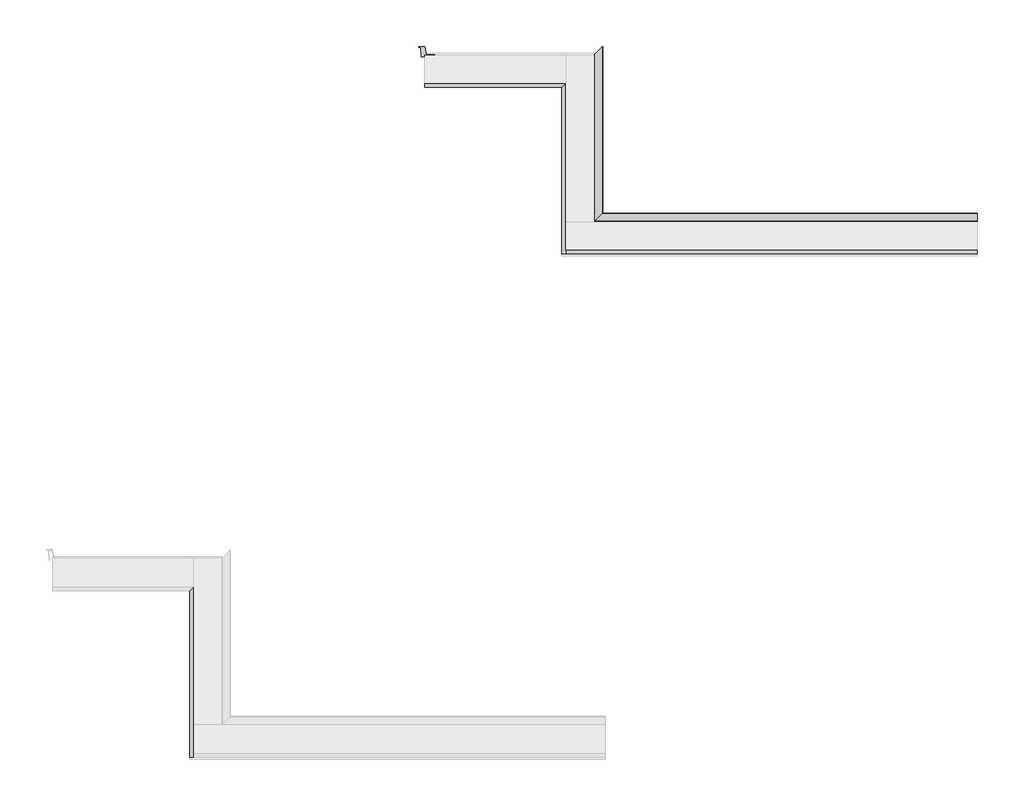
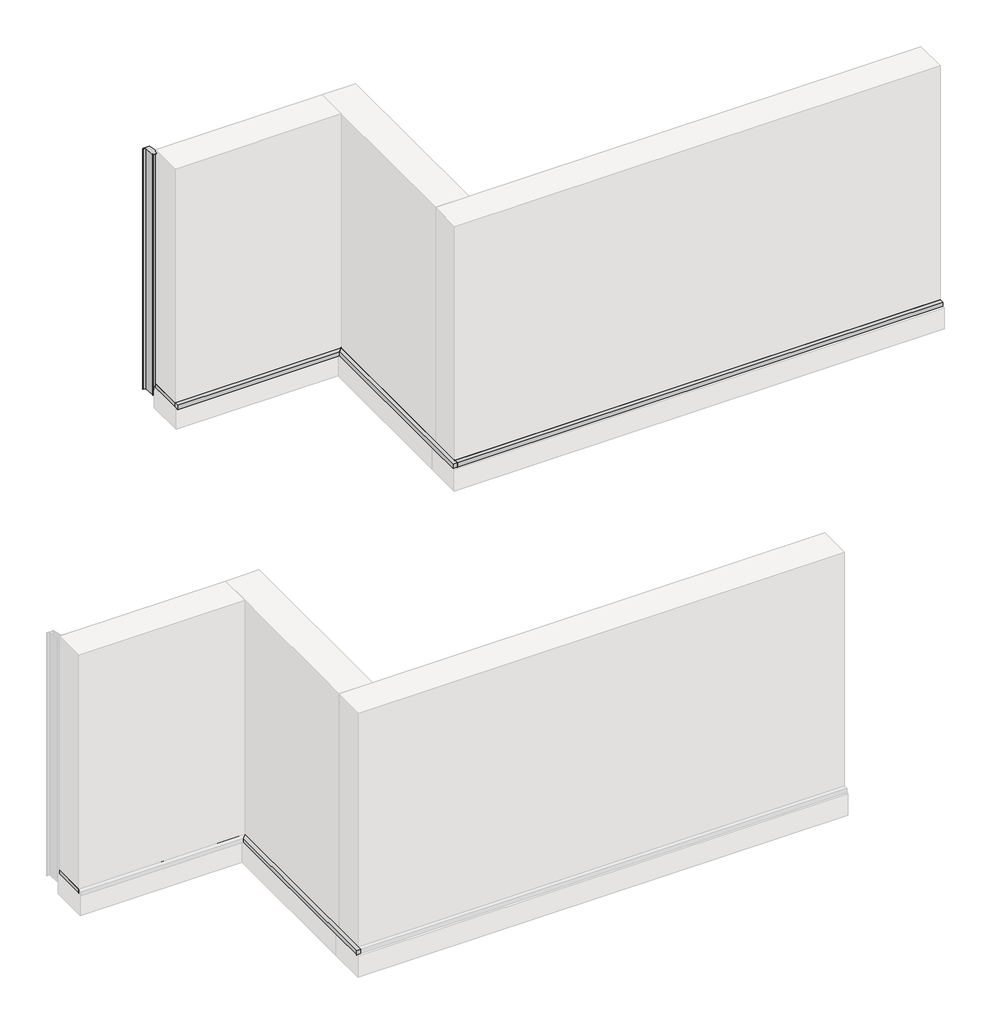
# One storey, part 2 of 2: 15 proxies.
"""IFC4 building model written with IfcOpenShell, lengths in millimetres."""

from ifc_helpers import new_model, si_unit, frame, origin, origin_with_axes, place, context, project, spatial, polyline, circle_curve, ellipse_curve, outline, extrude, faceted_brep, transform, mapped, element, save
from ifc_brep_helpers import plane_surface, cylinder_surface, revolved_surface, advanced_brep
from components import generic_models_a85a8350, generic_models_260bb002, end_cap_end_cap_e757bbac, end_cap_end_cap_c93f98a4

model = new_model("IFC4")

# Units and contexts
model_context = context("Model", 3, world=origin())
ifc_project = project(units=[si_unit("LENGTHUNIT", "METRE", prefix="MILLI")], contexts=[model_context])

# Site, building, storey
site = spatial("IfcSite", under=ifc_project)
building = spatial("IfcBuilding", under=site)
storey = spatial("IfcBuildingStorey", under=building, Name="Air Blocking KPA-L150U", Elevation=0.0)

# Proxies
placement = place(None, origin())
element("IfcBuildingElementProxy", 1, Name="Joto-Vent KP-L150U", ObjectType="Joto-Vent KP-L150U", at=placement, inside=storey, context=model_context, shape_type="Brep", body=[
    faceted_brep([(2314.048582, 8301.6714085, 20.0), (2464.048582, 8451.6714085, 20.0), (2464.048582, 8451.6714085, 0.0), (2314.048582, 8301.6714085, 0.0), (4489.048582, 8451.6714085, 0.0), (4489.048582, 8451.6714085, 20.0), (4489.048582, 8413.4607536, 20.0), (4489.048582, 8413.4607536, 0.95), (4489.048582, 8339.8820634, 0.95), (4489.048582, 8339.8820634, 20.0), (4489.048582, 8301.6714085, 20.0), (4489.048582, 8301.6714085, 0.0), (4458.915882, 8339.8820634, 20.0), (4458.915882, 8324.2210536, 20.0), (4449.588041, 8324.2210536, 20.0), (4449.455341, 8339.8607536, 20.0), (4441.448582, 8339.8607536, 20.0), (4441.448582, 8413.4820634, 20.0), (4449.455341, 8413.4820634, 20.0), (4449.588041, 8429.1217634, 20.0), (4458.915882, 8429.1217634, 20.0), (4458.915882, 8413.4607536, 20.0), (4417.106282, 8429.1217634, 20.0), (4426.4341229, 8429.1217634, 20.0), (4426.5668229, 8413.4820634, 20.0), (4434.573582, 8413.4820634, 20.0), (4434.573582, 8339.8607536, 20.0), (4426.5668229, 8339.8607536, 20.0), (4426.4341229, 8324.2210536, 20.0), (4417.106282, 8324.2210536, 20.0), (4417.106282, 8339.8820634, 20.0), (4386.973582, 8339.8820634, 20.0), (4386.973582, 8413.4607536, 20.0), (4417.106282, 8413.4607536, 20.0), (4417.106282, 8429.1217634, 0.95), (4417.106282, 8413.4607536, 0.95), (4386.973582, 8413.4607536, 0.95), (4386.973582, 8339.8820634, 0.95), (4417.106282, 8339.8820634, 0.95), (4417.106282, 8324.2210536, 0.95), (4426.4341229, 8324.2210536, 0.95), (4426.5668229, 8339.8607536, 0.95), (4434.573582, 8339.8607536, 0.95), (4434.573582, 8413.4820634, 0.95), (4426.5668229, 8413.4820634, 0.95), (4426.4341229, 8429.1217634, 0.95), (4458.915882, 8429.1217634, 0.95), (4449.588041, 8429.1217634, 0.95), (4449.455341, 8413.4820634, 0.95), (4441.448582, 8413.4820634, 0.95), (4441.448582, 8339.8607536, 0.95), (4449.455341, 8339.8607536, 0.95), (4449.588041, 8324.2210536, 0.95), (4458.915882, 8324.2210536, 0.95), (4458.915882, 8339.8820634, 0.95), (4458.915882, 8413.4607536, 0.95)], [[[0, 1, 2, 3]], [[4, 5, 6, 7, 8, 9, 10, 11]], [[1, 0, 10, 9, 12, 13, 14, 15, 16, 17, 18, 19, 20, 21, 6, 5], [22, 23, 24, 25, 26, 27, 28, 29, 30, 31, 32, 33]], [[2, 1, 5, 4]], [[3, 2, 4, 11]], [[0, 3, 11, 10]], [[34, 35, 36, 37, 38, 39, 40, 41, 42, 43, 44, 45]], [[34, 45, 23, 22]], [[45, 44, 24, 23]], [[44, 43, 25, 24]], [[43, 42, 26, 25]], [[42, 41, 27, 26]], [[41, 40, 28, 27]], [[40, 39, 29, 28]], [[39, 38, 30, 29]], [[38, 37, 31, 30]], [[37, 36, 32, 31]], [[36, 35, 33, 32]], [[35, 34, 22, 33]], [[46, 47, 48, 49, 50, 51, 52, 53, 54, 8, 7, 55]], [[47, 46, 20, 19]], [[48, 47, 19, 18]], [[49, 48, 18, 17]], [[50, 49, 17, 16]], [[51, 50, 16, 15]], [[52, 51, 15, 14]], [[53, 52, 14, 13]], [[54, 53, 13, 12]], [[8, 54, 12, 9]], [[55, 7, 6, 21]], [[46, 55, 21, 20]]]),
])
element("IfcBuildingElementProxy", 2, Name="Architectural-Covering_WACF-U45", ObjectType="Architectural-Covering_WACF-U45", at=placement, inside=storey, context=model_context, shape_type="AdvancedBrep", body=[
    advanced_brep(
    [(2464.848582, 8452.4714085, 62.5), (2464.848582, 8452.4714085, 18.6269726), (2465.5922023, 8453.2150288, 17.7168268), (2508.2782765, 8495.901103, 9.0322469), (2509.048582, 8496.6714085, 8.0894401), (2509.048582, 8496.6714085, -20.6283181), (2506.248582, 8493.8714085, -20.6283181), (2506.248582, 8493.8714085, -10.7749849), (2505.4765016, 8493.0993281, -9.9754722), (2455.529355, 8443.1521815, -8.2312794), (2455.6275182, 8443.2503448, -5.4202514), (2460.0872462, 8447.7100727, -5.5759885), (2460.0593436, 8447.6821702, -6.3750142), (2455.6195775, 8443.2424041, -6.2199741), (2455.5772195, 8443.200046, -7.4329509), (2506.0585158, 8493.6813423, -9.1957966), (2507.048582, 8494.6714085, -10.2210401), (2507.048582, 8494.6714085, -20.6018682), (2508.248582, 8495.8714085, -20.6018682), (2508.248582, 8495.8714085, 7.5064524), (2507.5474981, 8495.1703247, 8.3645361), (2464.8402345, 8452.463061, 17.0534271), (2464.048582, 8451.6714085, 18.0223614), (2464.048582, 8451.6714085, 62.5), (4489.048582, 8452.4714085, 62.5), (4489.048582, 8451.6714085, 62.5), (4489.048582, 8451.6714085, 18.0223614), (4489.048582, 8452.463061, 17.0534271), (4489.048582, 8495.1703247, 8.3645361), (4489.048582, 8495.8714085, 7.5064524), (4489.048582, 8495.8714085, -20.6018682), (4489.048582, 8494.6714085, -20.6018682), (4489.048582, 8494.6714085, -10.2210401), (4489.048582, 8493.6813423, -9.1957966), (4489.048582, 8443.200046, -7.4329509), (4489.048582, 8443.2424041, -6.2199741), (4489.048582, 8447.6821702, -6.3750142), (4489.048582, 8447.7100727, -5.5759885), (4489.048582, 8443.2503448, -5.4202514), (4489.048582, 8443.1521815, -8.2312794), (4489.048582, 8493.0993281, -9.9754722), (4489.048582, 8493.8714085, -10.7749849), (4489.048582, 8493.8714085, -20.6283181), (4489.048582, 8496.6714085, -20.6283181), (4489.048582, 8496.6714085, 8.0894401), (4489.048582, 8495.901103, 9.0322469), (4489.048582, 8453.2150288, 17.7168268), (4489.048582, 8452.4714085, 18.6269726)],
    [
        (0, 1),
        (1, 2, ellipse_curve(frame((2465.7773735, 8453.4002001, 18.6269726), z_axis=(0.7071067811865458, -0.7071067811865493, 0.0), x_axis=(0.7071067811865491, 0.7071067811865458, 0.0)), 1.3135097, 0.9287916)),
        (2, 3),
        (3, 4, ellipse_curve(frame((2508.0864603, 8495.7092868, 8.0894401), z_axis=(-0.7071067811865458, 0.7071067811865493, 0.0), x_axis=(-0.7071067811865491, -0.7071067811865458, 0.0)), 1.3606455, 0.9621217)),
        (4, 5),
        (5, 6, ellipse_curve(frame((2507.648582, 8495.2714085, -20.6283181), z_axis=(-0.7071067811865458, 0.7071067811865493, 0.0), x_axis=(-0.7071067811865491, -0.7071067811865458, 0.0)), 1.979899, 1.4)),
        (6, 7),
        (7, 8, ellipse_curve(frame((2505.448582, 8493.0714085, -10.7749849), z_axis=(0.7071067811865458, -0.7071067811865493, 0.0), x_axis=(0.7071067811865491, 0.7071067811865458, 0.0)), 1.1313708, 0.8)),
        (8, 9),
        (9, 10, ellipse_curve(frame((2455.5784366, 8443.2012631, -6.8257654), z_axis=(-0.7071067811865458, 0.7071067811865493, 0.0), x_axis=(-0.7071067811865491, -0.7071067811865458, 0.0)), 1.9889086, 1.4063707)),
        (10, 11),
        (11, 12),
        (12, 13),
        (13, 14, ellipse_curve(frame((2455.5983985, 8443.2212251, -6.8264625), z_axis=(0.7071067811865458, -0.7071067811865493, 0.0), x_axis=(0.7071067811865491, 0.7071067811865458, 0.0)), 0.8582269, 0.6068581)),
        (14, 15),
        (15, 16, ellipse_curve(frame((2506.0227135, 8493.6455401, -10.2210401), z_axis=(-0.7071067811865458, 0.7071067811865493, 0.0), x_axis=(-0.7071067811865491, -0.7071067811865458, 0.0)), 1.4507971, 1.0258685)),
        (16, 17),
        (17, 18, ellipse_curve(frame((2507.648582, 8495.2714085, -20.6018682), z_axis=(0.7071067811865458, -0.7071067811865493, 0.0), x_axis=(0.7071067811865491, 0.7071067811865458, 0.0)), 0.8485281, 0.6)),
        (18, 19),
        (19, 20, ellipse_curve(frame((2507.372919, 8494.9957456, 7.5064524), z_axis=(0.7071067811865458, -0.7071067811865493, 0.0), x_axis=(0.7071067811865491, 0.7071067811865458, 0.0)), 1.2383744, 0.8756629)),
        (20, 21),
        (21, 22, ellipse_curve(frame((2465.0373664, 8452.6601929, 18.0223614), z_axis=(-0.7071067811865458, 0.7071067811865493, 0.0), x_axis=(-0.7071067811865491, -0.7071067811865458, 0.0)), 1.3983524, 0.9887844)),
        (22, 23),
        (23, 0),
        (24, 25),
        (25, 26),
        (26, 27, circle_curve(frame((4489.048582, 8452.6601929, 18.0223614), z_axis=(1.0, 0.0, 0.0), x_axis=(0.0, 0.0, -1.0)), 0.9887844)),
        (27, 28),
        (28, 29, circle_curve(frame((4489.048582, 8494.9957456, 7.5064524), z_axis=(-1.0, 0.0, 0.0), x_axis=(0.0, 0.0, -1.0)), 0.8756629)),
        (29, 30),
        (30, 31, circle_curve(frame((4489.048582, 8495.2714085, -20.6018682), z_axis=(-1.0, 0.0, 0.0), x_axis=(0.0, 0.0, -1.0)), 0.6)),
        (31, 32),
        (32, 33, circle_curve(frame((4489.048582, 8493.6455401, -10.2210401), z_axis=(1.0, 0.0, 0.0), x_axis=(0.0, 0.0, -1.0)), 1.0258685)),
        (33, 34),
        (34, 35, circle_curve(frame((4489.048582, 8443.2212251, -6.8264625), z_axis=(-1.0, 0.0, 0.0), x_axis=(0.0, 0.0, -1.0)), 0.6068581)),
        (35, 36),
        (36, 37),
        (37, 38),
        (38, 39, circle_curve(frame((4489.048582, 8443.2012631, -6.8257654), z_axis=(1.0, 0.0, 0.0), x_axis=(0.0, 0.0, -1.0)), 1.4063707)),
        (39, 40),
        (40, 41, circle_curve(frame((4489.048582, 8493.0714085, -10.7749849), z_axis=(-1.0, 0.0, 0.0), x_axis=(0.0, 0.0, -1.0)), 0.8)),
        (41, 42),
        (42, 43, circle_curve(frame((4489.048582, 8495.2714085, -20.6283181), z_axis=(1.0, 0.0, 0.0), x_axis=(0.0, 0.0, -1.0)), 1.4)),
        (43, 44),
        (44, 45, circle_curve(frame((4489.048582, 8495.7092868, 8.0894401), z_axis=(1.0, 0.0, 0.0), x_axis=(0.0, 0.0, -1.0)), 0.9621217)),
        (45, 46),
        (46, 47, circle_curve(frame((4489.048582, 8453.4002001, 18.6269726), z_axis=(-1.0, 0.0, 0.0), x_axis=(0.0, 0.0, -1.0)), 0.9287916)),
        (47, 24),
        (0, 24),
        (47, 1),
        (46, 2),
        (45, 3),
        (44, 4),
        (43, 5),
        (42, 6),
        (41, 7),
        (40, 8),
        (39, 9),
        (38, 10),
        (37, 11),
        (36, 12),
        (35, 13),
        (34, 14),
        (33, 15),
        (32, 16),
        (31, 17),
        (30, 18),
        (29, 19),
        (28, 20),
        (27, 21),
        (26, 22),
        (25, 23),
    ],
    [
        plane_surface(frame((2464.048582, 8451.6714085, -242.3), z_axis=(-0.7071067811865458, 0.7071067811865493, 0.0), x_axis=(0.7071067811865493, 0.7071067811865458, 0.0))),
        plane_surface(frame((4489.048582, 8451.6714085, -32.610444), z_axis=(1.0, 0.0, 0.0), x_axis=(0.0, 1.0, 0.0))),
        plane_surface(frame((2464.848582, 8452.4714085, 62.5), z_axis=(0.0, 1.0, 0.0), x_axis=(1.0, 0.0, 0.0))),
        revolved_surface(polyline([(4489.048582, 8453.4002001, 17.698180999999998), (2464.848581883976, 8453.4002001, 17.698180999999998)]), (2464.048582, 8453.4002001, 18.6269726), (1.0, 0.0, 0.0)),
        plane_surface(frame((2465.5922023, 8453.2150288, 17.7168268), z_axis=(0.0, 0.19936793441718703, 0.9799247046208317), x_axis=(1.0, 0.0, 0.0))),
        cylinder_surface(frame((2464.048582, 8495.7092868, 8.0894401), z_axis=(-1.0, 0.0, 0.0), x_axis=(0.0, 0.0, -1.0)), 0.9621217),
        plane_surface(frame((2509.048582, 8496.6714085, 8.0894401), z_axis=(0.0, 1.0, 0.0), x_axis=(1.0, 0.0, 0.0))),
        cylinder_surface(frame((2464.048582, 8495.2714085, -20.6283181), z_axis=(-1.0, 0.0, 0.0), x_axis=(0.0, 0.0, -1.0)), 1.4),
        plane_surface(frame((2506.248582, 8493.8714085, -20.6283181), z_axis=(0.0, -1.0, 0.0), x_axis=(1.0, 0.0, 0.0))),
        revolved_surface(polyline([(4489.048582, 8493.0714085, -11.5749849), (2504.6485820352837, 8493.0714085, -11.5749849)]), (2464.048582, 8493.0714085, -10.7749849), (1.0, 0.0, 0.0)),
        plane_surface(frame((2505.4765016, 8493.0993281, -9.9754722), z_axis=(0.0, -0.03489949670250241, -0.9993908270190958), x_axis=(1.0, 0.0, 0.0))),
        cylinder_surface(frame((2464.048582, 8443.2012631, -6.8257654), z_axis=(-1.0, 0.0, 0.0), x_axis=(0.0, 0.0, -1.0)), 1.4063707),
        plane_surface(frame((2455.6275182, 8443.2503448, -5.4202514), z_axis=(0.0, 0.03489949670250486, 0.9993908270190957), x_axis=(1.0, 0.0, 0.0))),
        plane_surface(frame((2460.0872462, 8447.7100727, -5.5759885), z_axis=(0.0, 0.9993908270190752, -0.034899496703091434), x_axis=(1.0, 0.0, 0.0))),
        plane_surface(frame((2460.0593436, 8447.6821702, -6.3750142), z_axis=(0.0, -0.03489949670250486, -0.9993908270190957), x_axis=(1.0, 0.0, 0.0))),
        revolved_surface(polyline([(4489.048582, 8443.2212251, -7.4333206), (2454.991540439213, 8443.2212251, -7.4333206)]), (2464.048582, 8443.2212251, -6.8264625), (1.0, 0.0, 0.0)),
        plane_surface(frame((2455.5772195, 8443.200046, -7.4329509), z_axis=(0.0, 0.03489949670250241, 0.9993908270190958), x_axis=(1.0, 0.0, 0.0))),
        cylinder_surface(frame((2464.048582, 8493.6455401, -10.2210401), z_axis=(-1.0, 0.0, 0.0), x_axis=(0.0, 0.0, -1.0)), 1.0258685),
        plane_surface(frame((2507.048582, 8494.6714085, -10.2210401), z_axis=(0.0, 1.0, 0.0), x_axis=(1.0, 0.0, 0.0))),
        revolved_surface(polyline([(4489.048582, 8495.2714085, -21.2018682), (2507.048582, 8495.2714085, -21.2018682)]), (2464.048582, 8495.2714085, -20.6018682), (1.0, 0.0, 0.0)),
        plane_surface(frame((2508.248582, 8495.8714085, -20.6018682), z_axis=(0.0, -1.0, 0.0), x_axis=(1.0, 0.0, 0.0))),
        revolved_surface(polyline([(4489.048582, 8494.9957456, 6.6307895), (2506.497256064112, 8494.9957456, 6.6307895)]), (2464.048582, 8494.9957456, 7.5064524), (1.0, 0.0, 0.0)),
        plane_surface(frame((2507.5474981, 8495.1703247, 8.3645361), z_axis=(0.0, -0.19936793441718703, -0.9799247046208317), x_axis=(1.0, 0.0, 0.0))),
        cylinder_surface(frame((2464.048582, 8452.6601929, 18.0223614), z_axis=(-1.0, 0.0, 0.0), x_axis=(0.0, 0.0, -1.0)), 0.9887844),
        plane_surface(frame((2464.048582, 8451.6714085, 18.0223614), z_axis=(0.0, -1.0, 0.0), x_axis=(1.0, 0.0, 0.0))),
        plane_surface(frame((2464.048582, 8451.6714085, 62.5), z_axis=(0.0, 0.0, 1.0), x_axis=(1.0, 0.0, 0.0))),
    ],
    [
        (0, [[1, 2, 3, 4, 5, 6, 7, 8, 9, 10, 11, 12, 13, 14, 15, 16, 17, 18, 19, 20, 21, 22, 23, 24]]),
        (1, [[25, 26, 27, 28, 29, 30, 31, 32, 33, 34, 35, 36, 37, 38, 39, 40, 41, 42, 43, 44, 45, 46, 47, 48]]),
        (2, [[-1, 49, -48, 50]]),
        (3, [[-2, -50, -47, 51]]),
        (4, [[-3, -51, -46, 52]]),
        (5, [[-4, -52, -45, 53]]),
        (6, [[-5, -53, -44, 54]]),
        (7, [[-6, -54, -43, 55]]),
        (8, [[-7, -55, -42, 56]]),
        (9, [[-8, -56, -41, 57]]),
        (10, [[-9, -57, -40, 58]]),
        (11, [[-10, -58, -39, 59]]),
        (12, [[-11, -59, -38, 60]]),
        (13, [[-12, -60, -37, 61]]),
        (14, [[-13, -61, -36, 62]]),
        (15, [[-14, -62, -35, 63]]),
        (16, [[-15, -63, -34, 64]]),
        (17, [[-16, -64, -33, 65]]),
        (18, [[-17, -65, -32, 66]]),
        (19, [[-18, -66, -31, 67]]),
        (20, [[-19, -67, -30, 68]]),
        (21, [[-20, -68, -29, 69]]),
        (22, [[-21, -69, -28, 70]]),
        (23, [[-22, -70, -27, 71]]),
        (24, [[-23, -71, -26, 72]]),
        (25, [[-24, -72, -25, -49]]),
    ],
),
])
element("IfcBuildingElementProxy", 3, Name="Joto-Vent KP-L150U", ObjectType="Joto-Vent KP-L150U", at=placement, inside=storey, context=model_context, shape_type="SweptSolid", body=[
    extrude(outline(polyline([(2314.048582, 9181.6714085), (2464.048582, 9331.6714085), (2464.048582, 8451.6714085), (2314.048582, 8301.6714085), (2314.048582, 9181.6714085)])), origin_with_axes(), (0.0, 0.0, 1.0), 20.0),
])
element("IfcBuildingElementProxy", 4, Name="Architectural-Covering_WACF-U45", ObjectType="Architectural-Covering_WACF-U45", at=placement, inside=storey, context=model_context, shape_type="AdvancedBrep", body=[
    advanced_brep(
    [(2464.848582, 9332.4714085, 62.5), (2464.848582, 9332.4714085, 18.6269726), (2465.5922023, 9333.2150288, 17.7168268), (2508.2782765, 9375.901103, 9.0322469), (2509.048582, 9376.6714085, 8.0894401), (2509.048582, 9376.6714085, -20.6283181), (2506.248582, 9373.8714085, -20.6283181), (2506.248582, 9373.8714085, -10.7749849), (2505.4765016, 9373.0993281, -9.9754722), (2455.529355, 9323.1521815, -8.2312794), (2455.6275182, 9323.2503448, -5.4202514), (2460.0872462, 9327.7100727, -5.5759885), (2460.0593436, 9327.6821702, -6.3750142), (2455.6195775, 9323.2424041, -6.2199741), (2455.5772195, 9323.200046, -7.4329509), (2506.0585158, 9373.6813423, -9.1957966), (2507.048582, 9374.6714085, -10.2210401), (2507.048582, 9374.6714085, -20.6018682), (2508.248582, 9375.8714085, -20.6018682), (2508.248582, 9375.8714085, 7.5064524), (2507.5474981, 9375.1703247, 8.3645361), (2464.8402345, 9332.463061, 17.0534271), (2464.048582, 9331.6714085, 18.0223614), (2464.048582, 9331.6714085, 62.5), (2464.848582, 8452.4714085, 62.5), (2464.048582, 8451.6714085, 62.5), (2464.048582, 8451.6714085, 18.0223614), (2464.8402345, 8452.463061, 17.0534271), (2507.5474981, 8495.1703247, 8.3645361), (2508.248582, 8495.8714085, 7.5064524), (2508.248582, 8495.8714085, -20.6018682), (2507.048582, 8494.6714085, -20.6018682), (2507.048582, 8494.6714085, -10.2210401), (2506.0585158, 8493.6813423, -9.1957966), (2455.5772195, 8443.200046, -7.4329509), (2455.6195775, 8443.2424041, -6.2199741), (2460.0593436, 8447.6821702, -6.3750142), (2460.0872462, 8447.7100727, -5.5759885), (2455.6275182, 8443.2503448, -5.4202514), (2455.529355, 8443.1521815, -8.2312794), (2505.4765016, 8493.0993281, -9.9754722), (2506.248582, 8493.8714085, -10.7749849), (2506.248582, 8493.8714085, -20.6283181), (2509.048582, 8496.6714085, -20.6283181), (2509.048582, 8496.6714085, 8.0894401), (2508.2782765, 8495.901103, 9.0322469), (2465.5922023, 8453.2150288, 17.7168268), (2464.848582, 8452.4714085, 18.6269726)],
    [
        (0, 1),
        (1, 2, ellipse_curve(frame((2465.7773735, 9333.4002001, 18.6269726), z_axis=(0.7071067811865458, -0.7071067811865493, 0.0), x_axis=(-0.7071067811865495, -0.7071067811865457, 0.0)), 1.3135097, 0.9287916)),
        (2, 3),
        (3, 4, ellipse_curve(frame((2508.0864603, 9375.7092868, 8.0894401), z_axis=(-0.7071067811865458, 0.7071067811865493, 0.0), x_axis=(0.7071067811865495, 0.7071067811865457, 0.0)), 1.3606455, 0.9621217)),
        (4, 5),
        (5, 6, ellipse_curve(frame((2507.648582, 9375.2714085, -20.6283181), z_axis=(-0.7071067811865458, 0.7071067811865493, 0.0), x_axis=(0.7071067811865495, 0.7071067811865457, 0.0)), 1.979899, 1.4)),
        (6, 7),
        (7, 8, ellipse_curve(frame((2505.448582, 9373.0714085, -10.7749849), z_axis=(0.7071067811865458, -0.7071067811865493, 0.0), x_axis=(-0.7071067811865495, -0.7071067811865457, 0.0)), 1.1313708, 0.8)),
        (8, 9),
        (9, 10, ellipse_curve(frame((2455.5784366, 9323.2012631, -6.8257654), z_axis=(-0.7071067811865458, 0.7071067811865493, 0.0), x_axis=(0.7071067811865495, 0.7071067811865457, 0.0)), 1.9889086, 1.4063707)),
        (10, 11),
        (11, 12),
        (12, 13),
        (13, 14, ellipse_curve(frame((2455.5983985, 9323.2212251, -6.8264625), z_axis=(0.7071067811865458, -0.7071067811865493, 0.0), x_axis=(-0.7071067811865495, -0.7071067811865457, 0.0)), 0.8582269, 0.6068581)),
        (14, 15),
        (15, 16, ellipse_curve(frame((2506.0227135, 9373.6455401, -10.2210401), z_axis=(-0.7071067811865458, 0.7071067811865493, 0.0), x_axis=(0.7071067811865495, 0.7071067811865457, 0.0)), 1.4507971, 1.0258685)),
        (16, 17),
        (17, 18, ellipse_curve(frame((2507.648582, 9375.2714085, -20.6018682), z_axis=(0.7071067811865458, -0.7071067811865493, 0.0), x_axis=(-0.7071067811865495, -0.7071067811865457, 0.0)), 0.8485281, 0.6)),
        (18, 19),
        (19, 20, ellipse_curve(frame((2507.372919, 9374.9957456, 7.5064524), z_axis=(0.7071067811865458, -0.7071067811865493, 0.0), x_axis=(-0.7071067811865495, -0.7071067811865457, 0.0)), 1.2383744, 0.8756629)),
        (20, 21),
        (21, 22, ellipse_curve(frame((2465.0373664, 9332.6601929, 18.0223614), z_axis=(-0.7071067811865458, 0.7071067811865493, 0.0), x_axis=(0.7071067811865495, 0.7071067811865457, 0.0)), 1.3983524, 0.9887844)),
        (22, 23),
        (23, 0),
        (24, 25),
        (25, 26),
        (26, 27, ellipse_curve(frame((2465.0373664, 8452.6601929, 18.0223614), z_axis=(0.7071067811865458, -0.7071067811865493, 0.0), x_axis=(0.7071067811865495, 0.7071067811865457, 0.0)), 1.3983524, 0.9887844)),
        (27, 28),
        (28, 29, ellipse_curve(frame((2507.372919, 8494.9957456, 7.5064524), z_axis=(-0.7071067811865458, 0.7071067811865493, 0.0), x_axis=(-0.7071067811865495, -0.7071067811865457, 0.0)), 1.2383744, 0.8756629)),
        (29, 30),
        (30, 31, ellipse_curve(frame((2507.648582, 8495.2714085, -20.6018682), z_axis=(-0.7071067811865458, 0.7071067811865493, 0.0), x_axis=(-0.7071067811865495, -0.7071067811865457, 0.0)), 0.8485281, 0.6)),
        (31, 32),
        (32, 33, ellipse_curve(frame((2506.0227135, 8493.6455401, -10.2210401), z_axis=(0.7071067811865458, -0.7071067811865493, 0.0), x_axis=(0.7071067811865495, 0.7071067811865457, 0.0)), 1.4507971, 1.0258685)),
        (33, 34),
        (34, 35, ellipse_curve(frame((2455.5983985, 8443.2212251, -6.8264625), z_axis=(-0.7071067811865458, 0.7071067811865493, 0.0), x_axis=(-0.7071067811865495, -0.7071067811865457, 0.0)), 0.8582269, 0.6068581)),
        (35, 36),
        (36, 37),
        (37, 38),
        (38, 39, ellipse_curve(frame((2455.5784366, 8443.2012631, -6.8257654), z_axis=(0.7071067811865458, -0.7071067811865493, 0.0), x_axis=(0.7071067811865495, 0.7071067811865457, 0.0)), 1.9889086, 1.4063707)),
        (39, 40),
        (40, 41, ellipse_curve(frame((2505.448582, 8493.0714085, -10.7749849), z_axis=(-0.7071067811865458, 0.7071067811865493, 0.0), x_axis=(-0.7071067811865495, -0.7071067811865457, 0.0)), 1.1313708, 0.8)),
        (41, 42),
        (42, 43, ellipse_curve(frame((2507.648582, 8495.2714085, -20.6283181), z_axis=(0.7071067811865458, -0.7071067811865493, 0.0), x_axis=(0.7071067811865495, 0.7071067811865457, 0.0)), 1.979899, 1.4)),
        (43, 44),
        (44, 45, ellipse_curve(frame((2508.0864603, 8495.7092868, 8.0894401), z_axis=(0.7071067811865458, -0.7071067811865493, 0.0), x_axis=(0.7071067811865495, 0.7071067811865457, 0.0)), 1.3606455, 0.9621217)),
        (45, 46),
        (46, 47, ellipse_curve(frame((2465.7773735, 8453.4002001, 18.6269726), z_axis=(-0.7071067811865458, 0.7071067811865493, 0.0), x_axis=(-0.7071067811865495, -0.7071067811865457, 0.0)), 1.3135097, 0.9287916)),
        (47, 24),
        (0, 24),
        (47, 1),
        (46, 2),
        (45, 3),
        (44, 4),
        (43, 5),
        (42, 6),
        (41, 7),
        (40, 8),
        (39, 9),
        (38, 10),
        (37, 11),
        (36, 12),
        (35, 13),
        (34, 14),
        (33, 15),
        (32, 16),
        (31, 17),
        (30, 18),
        (29, 19),
        (28, 20),
        (27, 21),
        (26, 22),
        (25, 23),
    ],
    [
        plane_surface(frame((2464.048582, 9331.6714085, 367.3), z_axis=(-0.7071067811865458, 0.7071067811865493, 0.0), x_axis=(-0.7071067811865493, -0.7071067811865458, 0.0))),
        plane_surface(frame((2464.048582, 8451.6714085, -242.3), z_axis=(0.7071067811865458, -0.7071067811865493, 0.0), x_axis=(0.7071067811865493, 0.7071067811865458, 0.0))),
        plane_surface(frame((2464.848582, 9332.4714085, 62.5), z_axis=(1.0, 0.0, 0.0), x_axis=(0.0, -1.0, 0.0))),
        revolved_surface(polyline([(2465.7773735, 8452.471408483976, 17.698180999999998), (2465.7773735, 9334.328991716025, 17.698180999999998)]), (2465.7773735, 9331.6714085, 18.6269726), (0.0, -1.0, 0.0)),
        plane_surface(frame((2465.5922023, 9333.2150288, 17.7168268), z_axis=(0.19936793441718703, 0.0, 0.9799247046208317), x_axis=(0.0, -1.0, 0.0))),
        cylinder_surface(frame((2508.0864603, 9331.6714085, 8.0894401), z_axis=(0.0, 1.0, 0.0), x_axis=(0.0, 0.0, -1.0)), 0.9621217),
        plane_surface(frame((2509.048582, 9376.6714085, 8.0894401), z_axis=(1.0, 0.0, 0.0), x_axis=(0.0, -1.0, 0.0))),
        cylinder_surface(frame((2507.648582, 9331.6714085, -20.6283181), z_axis=(0.0, 1.0, 0.0), x_axis=(0.0, 0.0, -1.0)), 1.4),
        plane_surface(frame((2506.248582, 9373.8714085, -20.6283181), z_axis=(-1.0, 0.0, 0.0), x_axis=(0.0, -1.0, 0.0))),
        revolved_surface(polyline([(2505.448582, 8492.271408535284, -11.5749849), (2505.448582, 9373.8714085, -11.5749849)]), (2505.448582, 9331.6714085, -10.7749849), (0.0, -1.0, 0.0)),
        plane_surface(frame((2505.4765016, 9373.0993281, -9.9754722), z_axis=(-0.03489949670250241, 0.0, -0.9993908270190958), x_axis=(0.0, -1.0, 0.0))),
        cylinder_surface(frame((2455.5784366, 9331.6714085, -6.8257654), z_axis=(0.0, 1.0, 0.0), x_axis=(0.0, 0.0, -1.0)), 1.4063707),
        plane_surface(frame((2455.6275182, 9323.2503448, -5.4202514), z_axis=(0.03489949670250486, 0.0, 0.9993908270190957), x_axis=(0.0, -1.0, 0.0))),
        plane_surface(frame((2460.0872462, 9327.7100727, -5.5759885), z_axis=(0.9993908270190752, 0.0, -0.034899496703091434), x_axis=(0.0, -1.0, 0.0))),
        plane_surface(frame((2460.0593436, 9327.6821702, -6.3750142), z_axis=(-0.03489949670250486, 0.0, -0.9993908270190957), x_axis=(0.0, -1.0, 0.0))),
        revolved_surface(polyline([(2455.5983985, 8442.614367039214, -7.4333206), (2455.5983985, 9323.828083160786, -7.4333206)]), (2455.5983985, 9331.6714085, -6.8264625), (0.0, -1.0, 0.0)),
        plane_surface(frame((2455.5772195, 9323.200046, -7.4329509), z_axis=(0.03489949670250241, 0.0, 0.9993908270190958), x_axis=(0.0, -1.0, 0.0))),
        cylinder_surface(frame((2506.0227135, 9331.6714085, -10.2210401), z_axis=(0.0, 1.0, 0.0), x_axis=(0.0, 0.0, -1.0)), 1.0258685),
        plane_surface(frame((2507.048582, 9374.6714085, -10.2210401), z_axis=(1.0, 0.0, 0.0), x_axis=(0.0, -1.0, 0.0))),
        revolved_surface(polyline([(2507.648582, 8494.6714085, -21.2018682), (2507.648582, 9375.8714085, -21.2018682)]), (2507.648582, 9331.6714085, -20.6018682), (0.0, -1.0, 0.0)),
        plane_surface(frame((2508.248582, 9375.8714085, -20.6018682), z_axis=(-1.0, 0.0, 0.0), x_axis=(0.0, -1.0, 0.0))),
        revolved_surface(polyline([(2507.372919, 8494.12008266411, 6.6307895), (2507.372919, 9375.871408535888, 6.6307895)]), (2507.372919, 9331.6714085, 7.5064524), (0.0, -1.0, 0.0)),
        plane_surface(frame((2507.5474981, 9375.1703247, 8.3645361), z_axis=(-0.19936793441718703, 0.0, -0.9799247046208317), x_axis=(0.0, -1.0, 0.0))),
        cylinder_surface(frame((2465.0373664, 9331.6714085, 18.0223614), z_axis=(0.0, 1.0, 0.0), x_axis=(0.0, 0.0, -1.0)), 0.9887844),
        plane_surface(frame((2464.048582, 9331.6714085, 18.0223614), z_axis=(-1.0, 0.0, 0.0), x_axis=(0.0, -1.0, 0.0))),
        plane_surface(frame((2464.048582, 9331.6714085, 62.5), z_axis=(0.0, 0.0, 1.0), x_axis=(0.0, -1.0, 0.0))),
    ],
    [
        (0, [[1, 2, 3, 4, 5, 6, 7, 8, 9, 10, 11, 12, 13, 14, 15, 16, 17, 18, 19, 20, 21, 22, 23, 24]]),
        (1, [[25, 26, 27, 28, 29, 30, 31, 32, 33, 34, 35, 36, 37, 38, 39, 40, 41, 42, 43, 44, 45, 46, 47, 48]]),
        (2, [[-1, 49, -48, 50]]),
        (3, [[-2, -50, -47, 51]]),
        (4, [[-3, -51, -46, 52]]),
        (5, [[-4, -52, -45, 53]]),
        (6, [[-5, -53, -44, 54]]),
        (7, [[-6, -54, -43, 55]]),
        (8, [[-7, -55, -42, 56]]),
        (9, [[-8, -56, -41, 57]]),
        (10, [[-9, -57, -40, 58]]),
        (11, [[-10, -58, -39, 59]]),
        (12, [[-11, -59, -38, 60]]),
        (13, [[-12, -60, -37, 61]]),
        (14, [[-13, -61, -36, 62]]),
        (15, [[-14, -62, -35, 63]]),
        (16, [[-15, -63, -34, 64]]),
        (17, [[-16, -64, -33, 65]]),
        (18, [[-17, -65, -32, 66]]),
        (19, [[-18, -66, -31, 67]]),
        (20, [[-19, -67, -30, 68]]),
        (21, [[-20, -68, -29, 69]]),
        (22, [[-21, -69, -28, 70]]),
        (23, [[-22, -70, -27, 71]]),
        (24, [[-23, -71, -26, 72]]),
        (25, [[-24, -72, -25, -49]]),
    ],
),
])
element("IfcBuildingElementProxy", 5, Name="Joto-Vent KP-L150U", ObjectType="Joto-Vent KP-L150U", at=placement, inside=storey, context=model_context, shape_type="SweptSolid", body=[
    extrude(outline(polyline([(2464.048582, 9331.6714085), (2314.048582, 9181.6714085), (1569.048582, 9181.6714085), (1569.048582, 9331.6714085), (2464.048582, 9331.6714085)])), origin_with_axes(), (0.0, 0.0, 1.0), 20.0),
])
element("IfcBuildingElementProxy", 6, Name="Architectural-Covering_WACF-U45", ObjectType="Architectural-Covering_WACF-U45", at=placement, inside=storey, context=model_context, shape_type="AdvancedBrep", body=[
    advanced_brep(
    [(1621.548582, 9332.4714085, 1115.0316614), (1577.6755546, 9332.4714085, 1115.0316614), (1576.7654088, 9333.2150288, 1115.0316614), (1568.0808288, 9375.901103, 1115.0316614), (1567.138022, 9376.6714085, 1115.0316614), (1538.4202638, 9376.6714085, 1115.0316614), (1538.4202638, 9373.8714085, 1115.0316614), (1548.2735971, 9373.8714085, 1115.0316614), (1549.0731097, 9373.0993281, 1115.0316614), (1550.8173025, 9323.1521815, 1115.0316614), (1553.6283305, 9323.2503448, 1115.0316614), (1553.4725934, 9327.7100727, 1115.0316614), (1552.6735678, 9327.6821702, 1115.0316614), (1552.8286078, 9323.2424041, 1115.0316614), (1551.6156311, 9323.200046, 1115.0316614), (1549.8527854, 9373.6813423, 1115.0316614), (1548.8275418, 9374.6714085, 1115.0316614), (1538.4467138, 9374.6714085, 1115.0316614), (1538.4467138, 9375.8714085, 1115.0316614), (1566.5550344, 9375.8714085, 1115.0316614), (1567.4131181, 9375.1703247, 1115.0316614), (1576.1020091, 9332.463061, 1115.0316614), (1577.0709434, 9331.6714085, 1115.0316614), (1621.548582, 9331.6714085, 1115.0316614), (1621.548582, 9332.4714085, -22.4704011), (1621.548582, 9331.6714085, -22.4704011), (1577.0709434, 9331.6714085, -22.4704011), (1576.1020091, 9332.463061, -22.4704011), (1567.4131181, 9375.1703247, -22.4704011), (1566.5550344, 9375.8714085, -22.4704011), (1538.4467138, 9375.8714085, -22.4704011), (1538.4467138, 9374.6714085, -22.4704011), (1548.8275418, 9374.6714085, -22.4704011), (1549.8527854, 9373.6813423, -22.4704011), (1551.6156311, 9323.200046, -22.4704011), (1552.8286078, 9323.2424041, -22.4704011), (1552.6735678, 9327.6821702, -22.4704011), (1553.4725934, 9327.7100727, -22.4704011), (1553.6283305, 9323.2503448, -22.4704011), (1550.8173025, 9323.1521815, -22.4704011), (1549.0731097, 9373.0993281, -22.4704011), (1548.2735971, 9373.8714085, -22.4704011), (1538.4202638, 9373.8714085, -22.4704011), (1538.4202638, 9376.6714085, -22.4704011), (1567.138022, 9376.6714085, -22.4704011), (1568.0808288, 9375.901103, -22.4704011), (1576.7654088, 9333.2150288, -22.4704011), (1577.6755546, 9332.4714085, -22.4704011), (1621.548582, 9332.4714085, 62.5), (1621.548582, 9332.4714085, 18.6269726), (1621.548582, 9332.4714085, 17.0534271), (1621.548582, 9332.4714085, -7.756714), (1621.548582, 9332.4714085, -8.556714), (1621.548582, 9331.6714085, -8.5287774), (1621.548582, 9331.6714085, -7.7287774), (1621.548582, 9331.6714085, 18.0223614), (1621.548582, 9331.6714085, 62.5)],
    [
        (0, 1),
        (1, 2, circle_curve(frame((1577.6755546, 9333.4002001, 1115.0316614), z_axis=(0.0, 0.0, -1.0), x_axis=(-1.0, 0.0, 0.0)), 0.9287916)),
        (2, 3),
        (3, 4, circle_curve(frame((1567.138022, 9375.7092868, 1115.0316614), z_axis=(0.0, 0.0, 1.0), x_axis=(-1.0, 0.0, 0.0)), 0.9621217)),
        (4, 5),
        (5, 6, circle_curve(frame((1538.4202638, 9375.2714085, 1115.0316614), z_axis=(0.0, 0.0, 1.0), x_axis=(-1.0, 0.0, 0.0)), 1.4)),
        (6, 7),
        (7, 8, circle_curve(frame((1548.2735971, 9373.0714085, 1115.0316614), z_axis=(0.0, 0.0, -1.0), x_axis=(-1.0, 0.0, 0.0)), 0.8)),
        (8, 9),
        (9, 10, circle_curve(frame((1552.2228165, 9323.2012631, 1115.0316614), z_axis=(0.0, 0.0, 1.0), x_axis=(-1.0, 0.0, 0.0)), 1.4063707)),
        (10, 11),
        (11, 12),
        (12, 13),
        (13, 14, circle_curve(frame((1552.2221195, 9323.2212251, 1115.0316614), z_axis=(0.0, 0.0, -1.0), x_axis=(-1.0, 0.0, 0.0)), 0.6068581)),
        (14, 15),
        (15, 16, circle_curve(frame((1548.8275418, 9373.6455401, 1115.0316614), z_axis=(0.0, 0.0, 1.0), x_axis=(-1.0, 0.0, 0.0)), 1.0258685)),
        (16, 17),
        (17, 18, circle_curve(frame((1538.4467138, 9375.2714085, 1115.0316614), z_axis=(0.0, 0.0, -1.0), x_axis=(-1.0, 0.0, 0.0)), 0.6)),
        (18, 19),
        (19, 20, circle_curve(frame((1566.5550344, 9374.9957456, 1115.0316614), z_axis=(0.0, 0.0, -1.0), x_axis=(-1.0, 0.0, 0.0)), 0.8756629)),
        (20, 21),
        (21, 22, circle_curve(frame((1577.0709434, 9332.6601929, 1115.0316614), z_axis=(0.0, 0.0, 1.0), x_axis=(-1.0, 0.0, 0.0)), 0.9887844)),
        (22, 23),
        (23, 0),
        (24, 25),
        (25, 26),
        (26, 27, circle_curve(frame((1577.0709434, 9332.6601929, -22.4704011), z_axis=(0.0, 0.0, -1.0), x_axis=(-1.0, 0.0, 0.0)), 0.9887844)),
        (27, 28),
        (28, 29, circle_curve(frame((1566.5550344, 9374.9957456, -22.4704011), z_axis=(0.0, 0.0, 1.0), x_axis=(-1.0, 0.0, 0.0)), 0.8756629)),
        (29, 30),
        (30, 31, circle_curve(frame((1538.4467138, 9375.2714085, -22.4704011), z_axis=(0.0, 0.0, 1.0), x_axis=(-1.0, 0.0, 0.0)), 0.6)),
        (31, 32),
        (32, 33, circle_curve(frame((1548.8275418, 9373.6455401, -22.4704011), z_axis=(0.0, 0.0, -1.0), x_axis=(-1.0, 0.0, 0.0)), 1.0258685)),
        (33, 34),
        (34, 35, circle_curve(frame((1552.2221195, 9323.2212251, -22.4704011), z_axis=(0.0, 0.0, 1.0), x_axis=(-1.0, 0.0, 0.0)), 0.6068581)),
        (35, 36),
        (36, 37),
        (37, 38),
        (38, 39, circle_curve(frame((1552.2228165, 9323.2012631, -22.4704011), z_axis=(0.0, 0.0, -1.0), x_axis=(-1.0, 0.0, 0.0)), 1.4063707)),
        (39, 40),
        (40, 41, circle_curve(frame((1548.2735971, 9373.0714085, -22.4704011), z_axis=(0.0, 0.0, 1.0), x_axis=(-1.0, 0.0, 0.0)), 0.8)),
        (41, 42),
        (42, 43, circle_curve(frame((1538.4202638, 9375.2714085, -22.4704011), z_axis=(0.0, 0.0, -1.0), x_axis=(-1.0, 0.0, 0.0)), 1.4)),
        (43, 44),
        (44, 45, circle_curve(frame((1567.138022, 9375.7092868, -22.4704011), z_axis=(0.0, 0.0, -1.0), x_axis=(-1.0, 0.0, 0.0)), 0.9621217)),
        (45, 46),
        (46, 47, circle_curve(frame((1577.6755546, 9333.4002001, -22.4704011), z_axis=(0.0, 0.0, 1.0), x_axis=(-1.0, 0.0, 0.0)), 0.9287916)),
        (47, 24),
        (0, 48),
        (48, 49),
        (49, 50),
        (50, 51),
        (51, 52),
        (52, 24),
        (47, 1),
        (46, 2),
        (45, 3),
        (44, 4),
        (43, 5),
        (42, 6),
        (41, 7),
        (40, 8),
        (39, 9),
        (38, 10),
        (37, 11),
        (36, 12),
        (35, 13),
        (34, 14),
        (33, 15),
        (32, 16),
        (31, 17),
        (30, 18),
        (29, 19),
        (28, 20),
        (27, 21),
        (26, 22),
        (25, 53),
        (53, 54),
        (54, 55),
        (55, 56),
        (56, 23),
    ],
    [
        plane_surface(frame((1621.548582, 9236.5609645, 1115.0316614), z_axis=(0.0, 0.0, 1.0), x_axis=(-1.0, 0.0, 0.0))),
        plane_surface(frame((1621.548582, 9236.5609645, -22.4704011), z_axis=(0.0, 0.0, -1.0), x_axis=(-1.0, 0.0, 0.0))),
        plane_surface(frame((1621.548582, 9332.4714085, 1115.0316614), z_axis=(0.0, 1.0, 0.0), x_axis=(0.0, 0.0, -1.0))),
        revolved_surface(polyline([(1576.7467629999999, 9333.4002001, -22.47040109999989), (1576.7467629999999, 9333.4002001, 1115.0316614)]), (1577.6755546, 9333.4002001, 1115.0316614), (0.0, 0.0, -1.0)),
        plane_surface(frame((1576.7654088, 9333.2150288, 1115.0316614), z_axis=(0.9799247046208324, 0.19936793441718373, 0.0), x_axis=(0.0, 0.0, -1.0))),
        cylinder_surface(frame((1567.138022, 9375.7092868, 1115.0316614), z_axis=(0.0, 0.0, 1.0), x_axis=(-1.0, 0.0, 0.0)), 0.9621217),
        plane_surface(frame((1567.138022, 9376.6714085, 1115.0316614), z_axis=(0.0, 1.0, 0.0), x_axis=(0.0, 0.0, -1.0))),
        cylinder_surface(frame((1538.4202638, 9375.2714085, 1115.0316614), z_axis=(0.0, 0.0, 1.0), x_axis=(-1.0, 0.0, 0.0)), 1.4),
        plane_surface(frame((1538.4202638, 9373.8714085, 1115.0316614), z_axis=(0.0, -1.0, 0.0), x_axis=(0.0, 0.0, -1.0))),
        revolved_surface(polyline([(1547.4735971, 9373.0714085, -22.47040109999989), (1547.4735971, 9373.0714085, 1115.0316614)]), (1548.2735971, 9373.0714085, 1115.0316614), (0.0, 0.0, -1.0)),
        plane_surface(frame((1549.0731097, 9373.0993281, 1115.0316614), z_axis=(-0.9993908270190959, -0.03489949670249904, 0.0), x_axis=(0.0, 0.0, -1.0))),
        cylinder_surface(frame((1552.2228165, 9323.2012631, 1115.0316614), z_axis=(0.0, 0.0, 1.0), x_axis=(-1.0, 0.0, 0.0)), 1.4063707),
        plane_surface(frame((1553.6283305, 9323.2503448, 1115.0316614), z_axis=(0.9993908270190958, 0.03489949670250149, 0.0), x_axis=(0.0, 0.0, -1.0))),
        plane_surface(frame((1553.4725934, 9327.7100727, 1115.0316614), z_axis=(-0.03489949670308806, 0.9993908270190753, 0.0), x_axis=(0.0, 0.0, -1.0))),
        plane_surface(frame((1552.6735678, 9327.6821702, 1115.0316614), z_axis=(-0.9993908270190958, -0.03489949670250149, 0.0), x_axis=(0.0, 0.0, -1.0))),
        revolved_surface(polyline([(1551.6152614, 9323.2212251, -22.47040109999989), (1551.6152614, 9323.2212251, 1115.0316614)]), (1552.2221195, 9323.2212251, 1115.0316614), (0.0, 0.0, -1.0)),
        plane_surface(frame((1551.6156311, 9323.200046, 1115.0316614), z_axis=(0.9993908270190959, 0.03489949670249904, 0.0), x_axis=(0.0, 0.0, -1.0))),
        cylinder_surface(frame((1548.8275418, 9373.6455401, 1115.0316614), z_axis=(0.0, 0.0, 1.0), x_axis=(-1.0, 0.0, 0.0)), 1.0258685),
        plane_surface(frame((1548.8275418, 9374.6714085, 1115.0316614), z_axis=(0.0, 1.0, 0.0), x_axis=(0.0, 0.0, -1.0))),
        revolved_surface(polyline([(1537.8467138, 9375.2714085, -22.47040109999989), (1537.8467138, 9375.2714085, 1115.0316614)]), (1538.4467138, 9375.2714085, 1115.0316614), (0.0, 0.0, -1.0)),
        plane_surface(frame((1538.4467138, 9375.8714085, 1115.0316614), z_axis=(0.0, -1.0, 0.0), x_axis=(0.0, 0.0, -1.0))),
        revolved_surface(polyline([(1565.6793715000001, 9374.9957456, -22.47040109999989), (1565.6793715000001, 9374.9957456, 1115.0316614)]), (1566.5550344, 9374.9957456, 1115.0316614), (0.0, 0.0, -1.0)),
        plane_surface(frame((1567.4131181, 9375.1703247, 1115.0316614), z_axis=(-0.9799247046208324, -0.19936793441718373, 0.0), x_axis=(0.0, 0.0, -1.0))),
        cylinder_surface(frame((1577.0709434, 9332.6601929, 1115.0316614), z_axis=(0.0, 0.0, 1.0), x_axis=(-1.0, 0.0, 0.0)), 0.9887844),
        plane_surface(frame((1577.0709434, 9331.6714085, 1115.0316614), z_axis=(0.0, -1.0, 0.0), x_axis=(0.0, 0.0, -1.0))),
        plane_surface(frame((1621.548582, 9331.6714085, 1115.0316614), z_axis=(1.0, 0.0, 0.0), x_axis=(0.0, 0.0, -1.0))),
    ],
    [
        (0, [[1, 2, 3, 4, 5, 6, 7, 8, 9, 10, 11, 12, 13, 14, 15, 16, 17, 18, 19, 20, 21, 22, 23, 24]]),
        (1, [[25, 26, 27, 28, 29, 30, 31, 32, 33, 34, 35, 36, 37, 38, 39, 40, 41, 42, 43, 44, 45, 46, 47, 48]]),
        (2, [[-1, 49, 50, 51, 52, 53, 54, -48, 55]]),
        (3, [[-2, -55, -47, 56]]),
        (4, [[-3, -56, -46, 57]]),
        (5, [[-4, -57, -45, 58]]),
        (6, [[-5, -58, -44, 59]]),
        (7, [[-6, -59, -43, 60]]),
        (8, [[-7, -60, -42, 61]]),
        (9, [[-8, -61, -41, 62]]),
        (10, [[-9, -62, -40, 63]]),
        (11, [[-10, -63, -39, 64]]),
        (12, [[-11, -64, -38, 65]]),
        (13, [[-12, -65, -37, 66]]),
        (14, [[-13, -66, -36, 67]]),
        (15, [[-14, -67, -35, 68]]),
        (16, [[-15, -68, -34, 69]]),
        (17, [[-16, -69, -33, 70]]),
        (18, [[-17, -70, -32, 71]]),
        (19, [[-18, -71, -31, 72]]),
        (20, [[-19, -72, -30, 73]]),
        (21, [[-20, -73, -29, 74]]),
        (22, [[-21, -74, -28, 75]]),
        (23, [[-22, -75, -27, 76]]),
        (24, [[-23, -76, -26, 77, 78, 79, 80, 81]]),
        (25, [[-24, -81, -80, -79, -78, -77, -25, -54, -53, -52, -51, -50, -49]]),
    ],
),
])
element("IfcBuildingElementProxy", 7, Name="Air-Blocking KPA-L150U", ObjectType="Air-Blocking KPA-L150U", at=placement, inside=storey, context=model_context, shape_type="SweptSolid", body=[
    extrude(outline(polyline([(4489.048582, 8301.6714085), (4489.048582, 8281.6714085), (2314.048582, 8281.6714085), (2314.048582, 8301.6714085), (4489.048582, 8301.6714085)])), origin_with_axes(), (0.0, 0.0, 1.0), 20.0),
])
element("IfcBuildingElementProxy", 8, Name="Air-Blocking KPA-L150U", ObjectType="Air-Blocking KPA-L150U", at=placement, inside=storey, context=model_context, shape_type="Brep", body=[
    faceted_brep([(2314.048582, 9181.6714085, 20.0), (2314.048582, 9181.6714085, 0.0), (2294.048582, 9161.6714085, 0.0), (2294.048582, 9161.6714085, 20.0), (2314.048582, 8281.6714085, 20.0), (2294.048582, 8281.6714085, 20.0), (2294.048582, 8281.6714085, 0.0), (2314.048582, 8281.6714085, 0.0), (2314.048582, 8301.6714085, 20.0), (2314.048582, 8301.6714085, 0.0)], [[[0, 1, 2, 3]], [[4, 5, 6, 7]], [[1, 0, 8, 4, 7, 9]], [[2, 1, 9, 7, 6]], [[3, 2, 6, 5]], [[0, 3, 5, 4, 8]]]),
])
element("IfcBuildingElementProxy", 9, Name="Air-Blocking KPA-L150U", ObjectType="Air-Blocking KPA-L150U", at=placement, inside=storey, context=model_context, shape_type="SweptSolid", body=[
    extrude(outline(polyline([(2314.048582, 9181.6714085), (2294.048582, 9161.6714085), (1569.048582, 9161.6714085), (1569.048582, 9181.6714085), (2314.048582, 9181.6714085)])), origin_with_axes(), (0.0, 0.0, 1.0), 20.0),
])
element("IfcBuildingElementProxy", 10, Name="Joto-Vent KP-L150U", ObjectType="Joto-Vent KP-L150U", at=placement, inside=storey, context=model_context, shape_type="SweptSolid", body=[
    extrude(outline(polyline([(497.2963027, 6671.1901451), (347.2963027, 6521.1901451), (-397.7036973, 6521.1901451), (-397.7036973, 6671.1901451), (497.2963027, 6671.1901451)])), origin_with_axes(), (0.0, 0.0, 1.0), 20.0),
])
element("IfcBuildingElementProxy", 11, Name="Air-Blocking KPA-L150U", ObjectType="Air-Blocking KPA-L150U", at=placement, inside=storey, context=model_context, shape_type="Brep", body=[
    faceted_brep([(347.2963027, 6521.1901451, 20.0), (347.2963027, 6521.1901451, 0.0), (327.2963027, 6501.1901451, 0.0), (327.2963027, 6501.1901451, 20.0), (347.2963027, 5621.1901451, 20.0), (327.2963027, 5621.1901451, 20.0), (327.2963027, 5621.1901451, 0.0), (347.2963027, 5621.1901451, 0.0), (347.2963027, 5641.1901451, 20.0), (347.2963027, 5641.1901451, 0.0)], [[[0, 1, 2, 3]], [[4, 5, 6, 7]], [[1, 0, 8, 4, 7, 9]], [[2, 1, 9, 7, 6]], [[3, 2, 6, 5]], [[0, 3, 5, 4, 8]]]),
])
generic_models_shape = generic_models_a85a8350(model_context)
element("IfcBuildingElementProxy", 12, Name="Reinforcement-block KP-LRB150 : Reinforcement-Block KP-LRB150", ObjectType="Reinforcement-block KP-LRB150 : Reinforcement-Block KP-LRB150", at=placement, inside=storey, context=model_context, shape_type="MappedRepresentation", body=[
    mapped(generic_models_shape, transform((4488.248582, 8376.6714085, 20.0), x_axis=(1.0, 0.0, 0.0), y_axis=(0.0, 1.0, 0.0), z_axis=(0.0, 0.0, 1.0))),
])
generic_models_2_shape = generic_models_260bb002(model_context)
element("IfcBuildingElementProxy", 13, Name="Reinforcement-block KP-LRB150 : Reinforcement-Block KP-LRB150", ObjectType="Reinforcement-block KP-LRB150 : Reinforcement-Block KP-LRB150", at=placement, inside=storey, context=model_context, shape_type="MappedRepresentation", body=[
    mapped(generic_models_2_shape, transform((4387.773582, 8376.6714085, 20.0), x_axis=(-1.0, 0.0, 0.0), y_axis=(0.0, -1.0, 0.0), z_axis=(0.0, 0.0, 1.0))),
])
end_cap_end_cap_shape = end_cap_end_cap_e757bbac(model_context)
element("IfcBuildingElementProxy", 14, Name="End Cap : End Cap", ObjectType="End Cap : End Cap", at=placement, inside=storey, context=model_context, shape_type="MappedRepresentation", body=[
    mapped(end_cap_end_cap_shape, transform((1550.8646702, 9321.7957491, 1115.0316614), x_axis=(1.0, 0.0, 0.0), y_axis=(0.0, 1.0, 0.0), z_axis=(0.0, 0.0, 1.0))),
])
end_cap_end_cap_2_shape = end_cap_end_cap_c93f98a4(model_context)
element("IfcBuildingElementProxy", 15, Name="End Cap : End Cap", ObjectType="End Cap : End Cap", at=placement, inside=storey, context=model_context, shape_type="MappedRepresentation", body=[
    mapped(end_cap_end_cap_2_shape, transform((4489.048582, 8441.7957491, -8.3143737), x_axis=(0.0, 0.0, 1.0), y_axis=(0.0, -1.0, 0.0), z_axis=(1.0, 0.0, 0.0))),
])

save(model, "model.ifc")
